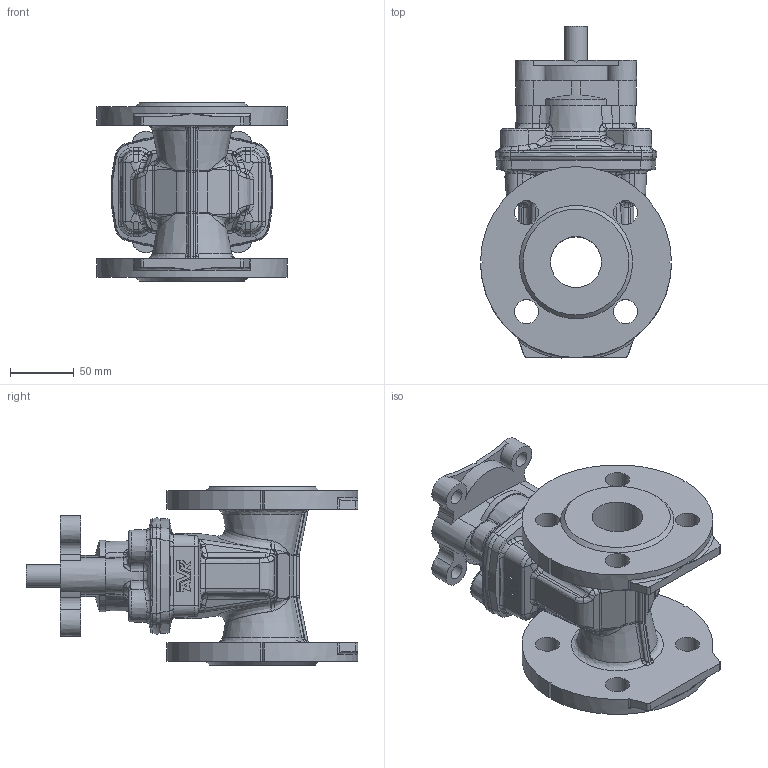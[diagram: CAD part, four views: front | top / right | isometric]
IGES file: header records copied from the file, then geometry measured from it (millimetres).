
Start section: SolidWorks IGES file using analytic representation for surfaces
Global section: file name: \\avksan2\techshare\PBM outline export from Enovia\O_06_42_DN040_X1XXX_REV02.igs; native system: SolidWorks 2022; preprocessor: SolidWorks 2022; author: pbm; date: 251218.074911; units: millimetre
Bounding box: 149.97 x 260.62 x 140 mm (x, y, z)
Surface area: 188488.9 mm2 (no closed solid volume)
Topology: 0 solids, 0 shells, 644 faces, 3237 edges, 3208 vertices
Faces by surface type: bspline 415, revolution 229
